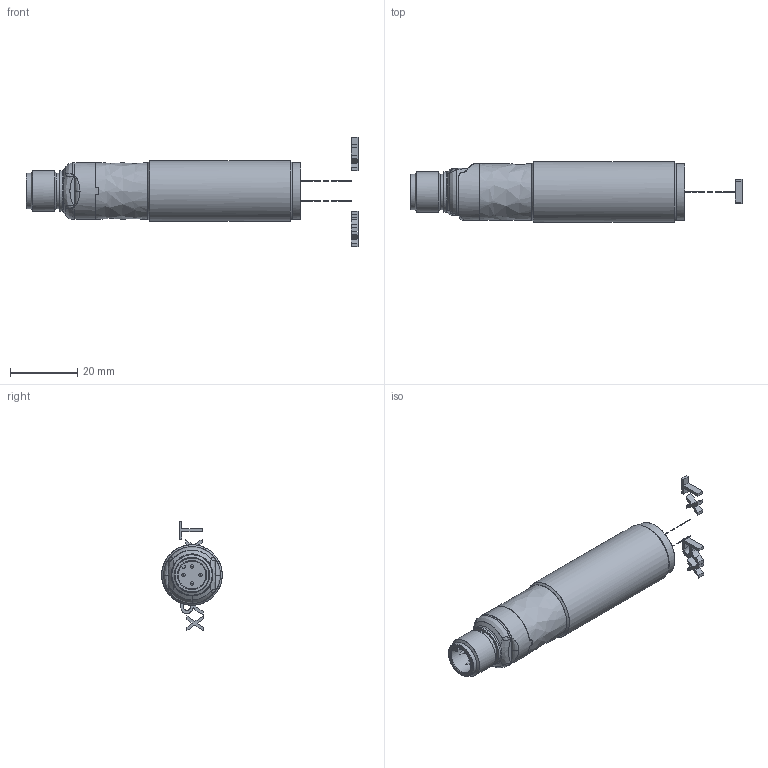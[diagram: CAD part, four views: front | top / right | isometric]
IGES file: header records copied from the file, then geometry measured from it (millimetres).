
Global section: file name: D:\TMP\DSD-0051.igs; preprocessor: I-DEAS 3D IGES Translator 11; date: 20060607.151346; units: millimetre
Bounding box: 98.6 x 17.99 x 32.67 mm (x, y, z)
Surface area: 10168.3 mm2
Topology: 8 solids, 8 shells, 227 faces, 1103 edges, 1005 vertices
Faces by surface type: bspline 227
